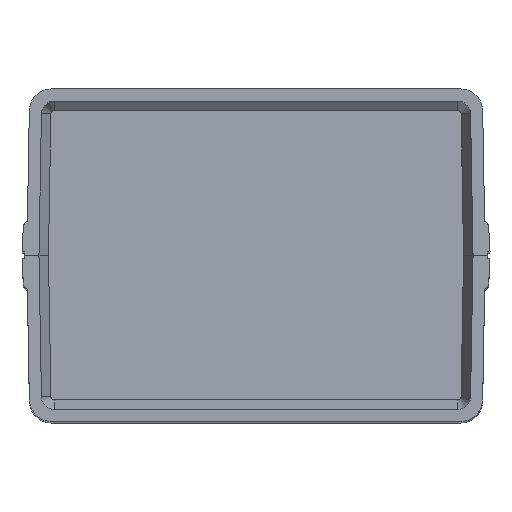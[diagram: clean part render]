
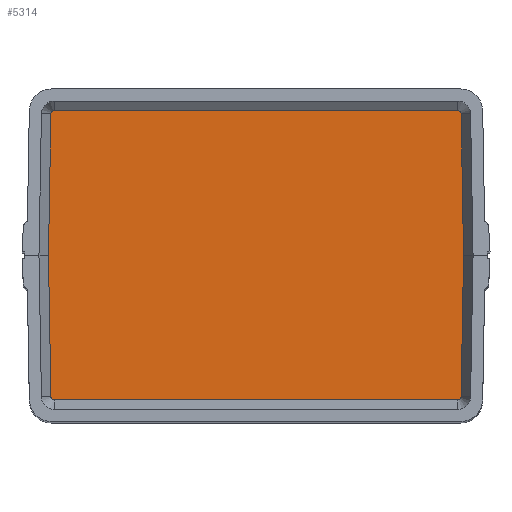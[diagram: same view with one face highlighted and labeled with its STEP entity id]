
A CAD part, top view. The second image highlights one B-rep face of the part: STEP entity #5314.
In plain terms, the highlighted planar face has unit normal (0, 0, 1) as drawn and (0, 0, -1) by its records, which use the part's own axes.
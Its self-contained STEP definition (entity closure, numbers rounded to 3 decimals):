
#256 = CARTESIAN_POINT ( 'NONE',  ( 39.05, 25.4, 0. ) ) ;
#264 = EDGE_CURVE ( 'NONE', #6474, #2722, #4110, .T. ) ;
#733 = VERTEX_POINT ( 'NONE', #8474 ) ;
#1540 = CARTESIAN_POINT ( 'NONE',  ( -39.05, -25.4, 0. ) ) ;
#1720 = CARTESIAN_POINT ( 'NONE',  ( -37.05, -25.4, 0. ) ) ;
#1941 = ORIENTED_EDGE ( 'NONE', *, *, #8739, .F. ) ;
#2192 = DIRECTION ( 'NONE',  ( 0., 0., 1. ) ) ;
#2452 = DIRECTION ( 'NONE',  ( 1., 0., 0. ) ) ;
#2623 = VECTOR ( 'NONE', #6602, 1000. ) ;
#2722 = VERTEX_POINT ( 'NONE', #6036 ) ;
#2990 = DIRECTION ( 'NONE',  ( -1., 0., 0. ) ) ;
#3474 = ORIENTED_EDGE ( 'NONE', *, *, #7476, .F. ) ;
#3721 = EDGE_CURVE ( 'NONE', #10317, #6474, #9930, .T. ) ;
#3814 = EDGE_CURVE ( 'NONE', #733, #10317, #5263, .T. ) ;
#4110 = LINE ( 'NONE', #10879, #9097 ) ;
#4477 = ORIENTED_EDGE ( 'NONE', *, *, #264, .F. ) ;
#4529 = CARTESIAN_POINT ( 'NONE',  ( -37.05, -27.4, 0. ) ) ;
#4731 = ORIENTED_EDGE ( 'NONE', *, *, #3814, .F. ) ;
#5067 = VERTEX_POINT ( 'NONE', #5273 ) ;
#5263 = LINE ( 'NONE', #6732, #2623 ) ;
#5273 = CARTESIAN_POINT ( 'NONE',  ( 39.05, -25.4, 0. ) ) ;
#5314 = ADVANCED_FACE ( 'NONE', ( #7032 ), #7700, .T. ) ;
#5857 = EDGE_LOOP ( 'NONE', ( #7084, #4731, #7901, #3474, #1941, #9270, #6408, #4477 ) ) ;
#6036 = CARTESIAN_POINT ( 'NONE',  ( 37.05, -27.4, 0. ) ) ;
#6219 = CARTESIAN_POINT ( 'NONE',  ( 37.05, -25.4, 0. ) ) ;
#6408 = ORIENTED_EDGE ( 'NONE', *, *, #12795, .F. ) ;
#6474 = VERTEX_POINT ( 'NONE', #4529 ) ;
#6602 = DIRECTION ( 'NONE',  ( 0., -1., 0. ) ) ;
#6732 = CARTESIAN_POINT ( 'NONE',  ( -39.05, -25.4, 0. ) ) ;
#7032 = FACE_OUTER_BOUND ( 'NONE', #5857, .T. ) ;
#7084 = ORIENTED_EDGE ( 'NONE', *, *, #3721, .F. ) ;
#7218 = DIRECTION ( 'NONE',  ( 1., 0., 0. ) ) ;
#7369 = DIRECTION ( 'NONE',  ( -1., 0., 0. ) ) ;
#7476 = EDGE_CURVE ( 'NONE', #8387, #12919, #12157, .T. ) ;
#7700 = PLANE ( 'NONE',  #12609 ) ;
#7722 = LINE ( 'NONE', #8971, #9590 ) ;
#7797 = VECTOR ( 'NONE', #7369, 1000. ) ;
#7901 = ORIENTED_EDGE ( 'NONE', *, *, #11560, .F. ) ;
#7997 = VERTEX_POINT ( 'NONE', #256 ) ;
#8387 = VERTEX_POINT ( 'NONE', #10846 ) ;
#8427 = DIRECTION ( 'NONE',  ( 0., 0., 1. ) ) ;
#8437 = AXIS2_PLACEMENT_3D ( 'NONE', #11257, #8427, #2452 ) ;
#8474 = CARTESIAN_POINT ( 'NONE',  ( -39.05, 25.4, 0. ) ) ;
#8739 = EDGE_CURVE ( 'NONE', #7997, #8387, #10862, .T. ) ;
#8889 = DIRECTION ( 'NONE',  ( 0., 1., 0. ) ) ;
#8959 = CARTESIAN_POINT ( 'NONE',  ( -37.05, -25.4, 0. ) ) ;
#8971 = CARTESIAN_POINT ( 'NONE',  ( 39.05, -25.4, 0. ) ) ;
#9097 = VECTOR ( 'NONE', #10918, 1000. ) ;
#9270 = ORIENTED_EDGE ( 'NONE', *, *, #9972, .F. ) ;
#9581 = CIRCLE ( 'NONE', #11214, 2. ) ;
#9590 = VECTOR ( 'NONE', #8889, 1000. ) ;
#9930 = CIRCLE ( 'NONE', #11587, 2. ) ;
#9950 = AXIS2_PLACEMENT_3D ( 'NONE', #12624, #10741, #11750 ) ;
#9972 = EDGE_CURVE ( 'NONE', #5067, #7997, #7722, .T. ) ;
#9992 = DIRECTION ( 'NONE',  ( -1., 0., 0. ) ) ;
#10305 = CARTESIAN_POINT ( 'NONE',  ( 37.05, 27.4, 0. ) ) ;
#10317 = VERTEX_POINT ( 'NONE', #1540 ) ;
#10741 = DIRECTION ( 'NONE',  ( 0., 0., 1. ) ) ;
#10846 = CARTESIAN_POINT ( 'NONE',  ( 37.05, 27.4, 0. ) ) ;
#10862 = CIRCLE ( 'NONE', #8437, 2. ) ;
#10879 = CARTESIAN_POINT ( 'NONE',  ( 37.05, -27.4, 0. ) ) ;
#10918 = DIRECTION ( 'NONE',  ( 1., 0., 0. ) ) ;
#10937 = DIRECTION ( 'NONE',  ( 0., 0., 1. ) ) ;
#11214 = AXIS2_PLACEMENT_3D ( 'NONE', #6219, #2192, #7218 ) ;
#11257 = CARTESIAN_POINT ( 'NONE',  ( 37.05, 25.4, 0. ) ) ;
#11560 = EDGE_CURVE ( 'NONE', #12919, #733, #11788, .T. ) ;
#11587 = AXIS2_PLACEMENT_3D ( 'NONE', #8959, #10937, #2990 ) ;
#11750 = DIRECTION ( 'NONE',  ( 1., 0., 0. ) ) ;
#11788 = CIRCLE ( 'NONE', #9950, 2. ) ;
#11870 = DIRECTION ( 'NONE',  ( 0., 0., -1. ) ) ;
#12140 = CARTESIAN_POINT ( 'NONE',  ( -37.05, 27.4, 0. ) ) ;
#12157 = LINE ( 'NONE', #10305, #7797 ) ;
#12609 = AXIS2_PLACEMENT_3D ( 'NONE', #1720, #11870, #9992 ) ;
#12624 = CARTESIAN_POINT ( 'NONE',  ( -37.05, 25.4, 0. ) ) ;
#12795 = EDGE_CURVE ( 'NONE', #2722, #5067, #9581, .T. ) ;
#12919 = VERTEX_POINT ( 'NONE', #12140 ) ;
